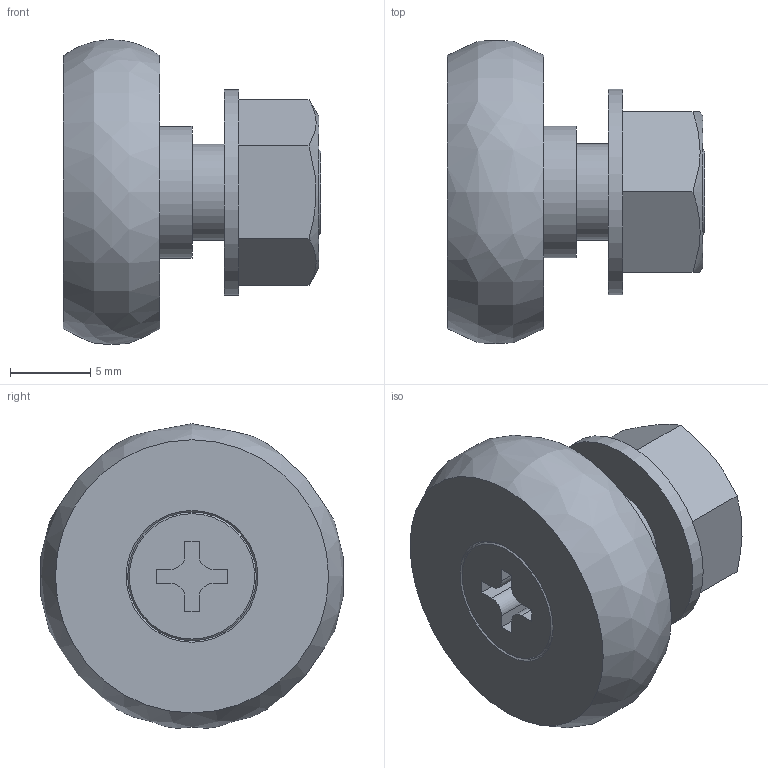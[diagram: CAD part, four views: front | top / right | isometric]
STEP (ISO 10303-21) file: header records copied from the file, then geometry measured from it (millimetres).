
FILE_DESCRIPTION(('STEP AP214'),'1');
FILE_NAME('BE19E.stp','2017-02-01T02:14:45',(' '),(' '),'Spatial InterOp 3D',' ',' ');
FILE_SCHEMA(('automotive_design'));
Length unit declared in the file: millimetre
Products named in the file (4): BE19E; M6ﾅｯﾄ; M6PW
Assembly tree (3 placements, depth 2):
  BE19E
    BE19E
    M6ﾅｯﾄ
    M6PW
Bounding box: 16 x 18.85 x 18.95 mm (x, y, z)
Volume: 2270 mm3; surface area: 1690.9 mm2
Topology: 3 solids, 3 shells, 42 faces, 94 edges, 62 vertices
Faces by surface type: plane 28, cylinder 9, cone 4, bspline 1
Full cylindrical faces by diameter (mm): 6 x2, 6.6 x1, 8.2 x1, 12.8 x1
Entity records: 1602 total; most frequent: CARTESIAN_POINT 271, DIRECTION 192, ORIENTED_EDGE 166, EDGE_CURVE 83, AXIS2_PLACEMENT_3D 70, VERTEX_POINT 61, EDGE_LOOP 60, LINE 52
